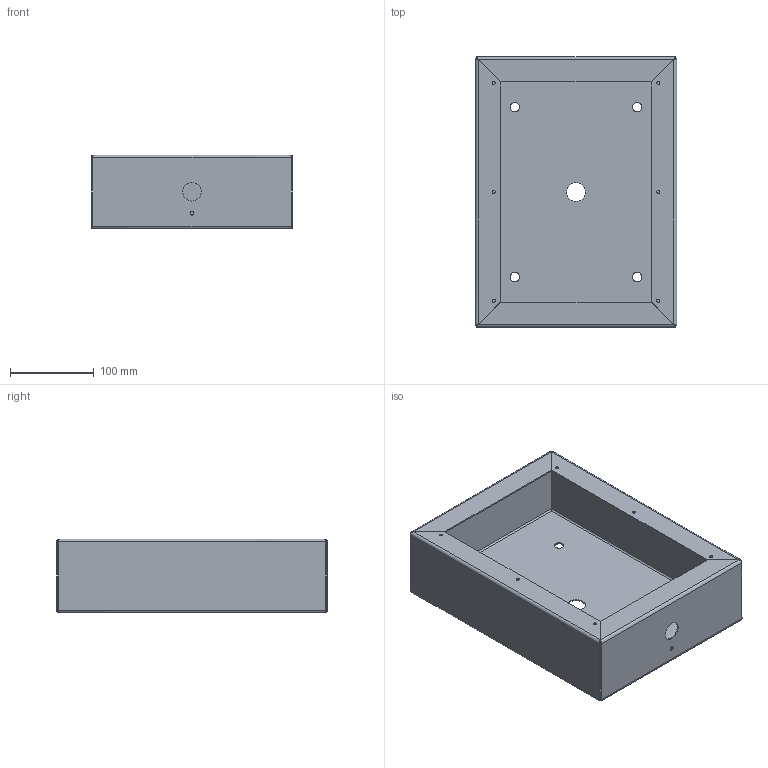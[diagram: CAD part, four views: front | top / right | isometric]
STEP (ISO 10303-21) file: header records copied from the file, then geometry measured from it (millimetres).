
FILE_DESCRIPTION (( 'STEP AP214' ), '1' );
FILE_NAME ('E00199 FOR DISTRIBUTION.STEP', '2019-12-12T12:35:54', ( '' ), ( '' ), 'SwSTEP 2.0', 'SolidWorks 2019', '' );
FILE_SCHEMA (( 'AUTOMOTIVE_DESIGN' ));
Length unit declared in the file: inch
Products named in the file (5): E00207; flush stud_pmi_E00107; E00199 FOR DISTRIBUTION; E00089; E00068
Assembly tree (4 placements, depth 4):
  E00199 FOR DISTRIBUTION
    E00207
      E00089
        E00068
        flush stud_pmi_E00107
Bounding box: 241.3 x 323.85 x 88.46 mm (x, y, z)
Volume: 317845.1 mm3; surface area: 403912.5 mm2
Topology: 2 solids, 2 shells, 181 faces, 459 edges, 284 vertices
Faces by surface type: plane 90, cylinder 58, bspline 16, cone 15, torus 2
Entity records: 6265 total; most frequent: CARTESIAN_POINT 1605, ORIENTED_EDGE 918, DIRECTION 893, EDGE_CURVE 459, AXIS2_PLACEMENT_3D 316, VERTEX_POINT 284, LINE 261, VECTOR 261
